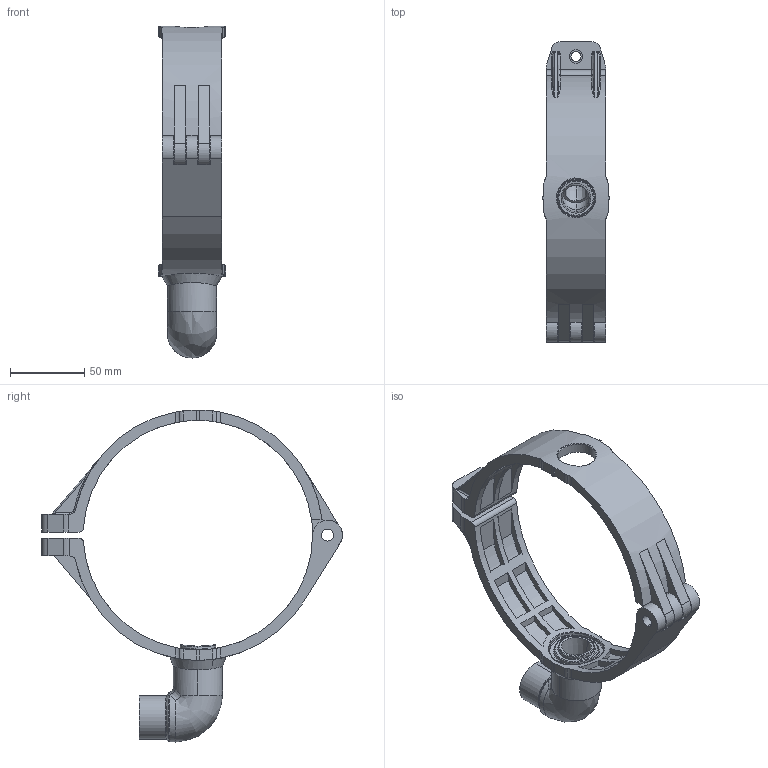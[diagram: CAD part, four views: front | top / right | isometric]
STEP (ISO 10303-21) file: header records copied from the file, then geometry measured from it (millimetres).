
FILE_DESCRIPTION(/* description */ (''),/* implementation_level */ '2;1');
FILE_NAME(/* name */ '9011_stp.stp',/* time_stamp */ '2025-06-20T11:36:14+08:00',/* author */ (''),/* organization */ (''),/* preprocessor_version */ 'ST-DEVELOPER v14',/* originating_system */ 'SIEMENS PLM Software NX 8.0',/* authorisation */ '');
FILE_SCHEMA (('AP203_CONFIGURATION_CONTROLLED_3D_DESIGN_OF_MECHANICAL_PARTS_AND_ASSEMBLIES_MIM_LF { 1 0 10303 403 2 1 2}'));
Length unit declared in the file: millimetre
Products named in the file (1): Admi0BECFFFE4xs0
Bounding box: 45 x 201.97 x 222.92 mm (x, y, z)
Volume: 178835.6 mm3; surface area: 78375.1 mm2
Topology: 2 solids, 2 shells, 335 faces, 918 edges, 617 vertices
Faces by surface type: plane 155, cylinder 119, bspline 40, torus 17, cone 4
Entity records: 16843 total; most frequent: CARTESIAN_POINT 8408, ORIENTED_EDGE 1836, DIRECTION 1616, EDGE_CURVE 918, VERTEX_POINT 617, AXIS2_PLACEMENT_3D 614, LINE 388, VECTOR 388
